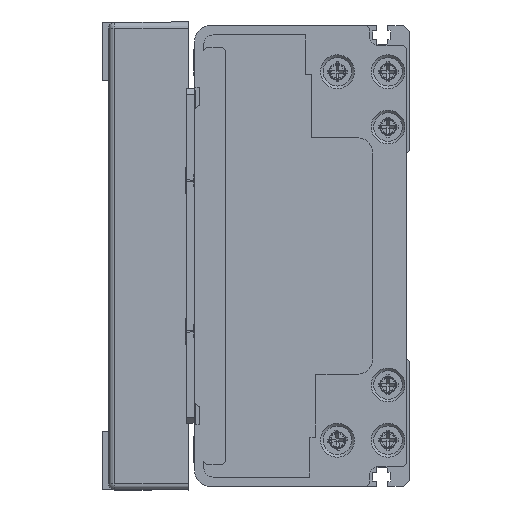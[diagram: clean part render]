
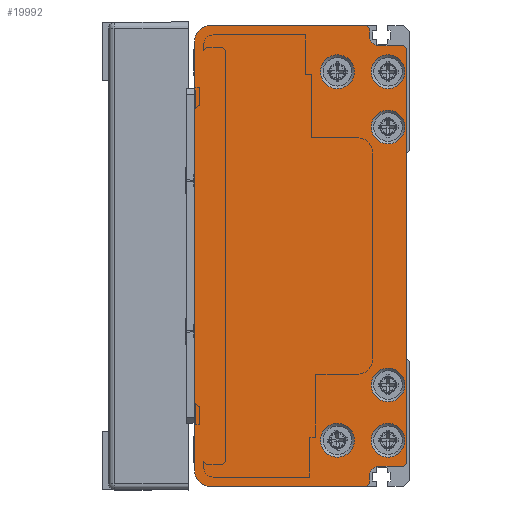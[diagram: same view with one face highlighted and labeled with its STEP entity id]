
A CAD part, left-side view. The second image highlights one B-rep face of the part: STEP entity #19992.
In plain terms, the highlighted planar face has unit normal (-1, 0, 0) as drawn and (0, 0, -1) by its records, which use the part's own axes.
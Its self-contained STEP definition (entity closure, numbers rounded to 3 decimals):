
#934=LINE('',#28962,#2599);
#935=LINE('',#28966,#2600);
#936=LINE('',#28968,#2601);
#937=LINE('',#28970,#2602);
#938=LINE('',#28974,#2603);
#939=LINE('',#28976,#2604);
#940=LINE('',#28978,#2605);
#941=LINE('',#28980,#2606);
#942=LINE('',#28982,#2607);
#943=LINE('',#28986,#2608);
#944=LINE('',#28988,#2609);
#945=LINE('',#28990,#2610);
#2599=VECTOR('',#23527,140.);
#2600=VECTOR('',#23530,51.);
#2601=VECTOR('',#23531,1.414);
#2602=VECTOR('',#23532,2.5);
#2603=VECTOR('',#23535,8.);
#2604=VECTOR('',#23536,1.414);
#2605=VECTOR('',#23537,135.);
#2606=VECTOR('',#23538,1.414);
#2607=VECTOR('',#23539,8.);
#2608=VECTOR('',#23542,2.5);
#2609=VECTOR('',#23543,1.414);
#2610=VECTOR('',#23544,51.);
#4217=PLANE('',#21382);
#4852=FACE_BOUND('',#6736,.T.);
#4853=FACE_BOUND('',#6737,.T.);
#4854=FACE_BOUND('',#6738,.T.);
#4855=FACE_BOUND('',#6739,.T.);
#4856=FACE_BOUND('',#6740,.T.);
#4857=FACE_BOUND('',#6741,.T.);
#5435=FACE_OUTER_BOUND('',#6735,.T.);
#6735=EDGE_LOOP('',(#14055,#14056,#14057,#14058,#14059,#14060,#14061,#14062,
#14063,#14064,#14065,#14066,#14067,#14068,#14069,#14070));
#6736=EDGE_LOOP('',(#14071));
#6737=EDGE_LOOP('',(#14072));
#6738=EDGE_LOOP('',(#14073));
#6739=EDGE_LOOP('',(#14074));
#6740=EDGE_LOOP('',(#14075));
#6741=EDGE_LOOP('',(#14076));
#8265=CIRCLE('',#21383,5.);
#8266=CIRCLE('',#21384,3.);
#8267=CIRCLE('',#21385,3.);
#8268=CIRCLE('',#21386,5.);
#8269=CIRCLE('',#21387,5.5);
#8270=CIRCLE('',#21388,5.5);
#8271=CIRCLE('',#21389,5.5);
#8272=CIRCLE('',#21390,5.5);
#8273=CIRCLE('',#21391,5.5);
#8274=CIRCLE('',#21392,5.5);
#8969=VERTEX_POINT('',#28960);
#8970=VERTEX_POINT('',#28961);
#8971=VERTEX_POINT('',#28963);
#8972=VERTEX_POINT('',#28965);
#8973=VERTEX_POINT('',#28967);
#8974=VERTEX_POINT('',#28969);
#8975=VERTEX_POINT('',#28971);
#8976=VERTEX_POINT('',#28973);
#8977=VERTEX_POINT('',#28975);
#8978=VERTEX_POINT('',#28977);
#8979=VERTEX_POINT('',#28979);
#8980=VERTEX_POINT('',#28981);
#8981=VERTEX_POINT('',#28983);
#8982=VERTEX_POINT('',#28985);
#8983=VERTEX_POINT('',#28987);
#8984=VERTEX_POINT('',#28989);
#8985=VERTEX_POINT('',#28992);
#8986=VERTEX_POINT('',#28994);
#8987=VERTEX_POINT('',#28996);
#8988=VERTEX_POINT('',#28998);
#8989=VERTEX_POINT('',#29000);
#8990=VERTEX_POINT('',#29002);
#11017=EDGE_CURVE('',#8969,#8970,#934,.T.);
#11018=EDGE_CURVE('',#8970,#8971,#8265,.T.);
#11019=EDGE_CURVE('',#8971,#8972,#935,.T.);
#11020=EDGE_CURVE('',#8972,#8973,#936,.T.);
#11021=EDGE_CURVE('',#8973,#8974,#937,.T.);
#11022=EDGE_CURVE('',#8974,#8975,#8266,.T.);
#11023=EDGE_CURVE('',#8975,#8976,#938,.T.);
#11024=EDGE_CURVE('',#8976,#8977,#939,.T.);
#11025=EDGE_CURVE('',#8977,#8978,#940,.T.);
#11026=EDGE_CURVE('',#8978,#8979,#941,.T.);
#11027=EDGE_CURVE('',#8979,#8980,#942,.T.);
#11028=EDGE_CURVE('',#8980,#8981,#8267,.T.);
#11029=EDGE_CURVE('',#8981,#8982,#943,.T.);
#11030=EDGE_CURVE('',#8982,#8983,#944,.T.);
#11031=EDGE_CURVE('',#8983,#8984,#945,.T.);
#11032=EDGE_CURVE('',#8984,#8969,#8268,.T.);
#11033=EDGE_CURVE('',#8985,#8985,#8269,.T.);
#11034=EDGE_CURVE('',#8986,#8986,#8270,.T.);
#11035=EDGE_CURVE('',#8987,#8987,#8271,.T.);
#11036=EDGE_CURVE('',#8988,#8988,#8272,.T.);
#11037=EDGE_CURVE('',#8989,#8989,#8273,.T.);
#11038=EDGE_CURVE('',#8990,#8990,#8274,.T.);
#14055=ORIENTED_EDGE('',*,*,#11017,.T.);
#14056=ORIENTED_EDGE('',*,*,#11018,.T.);
#14057=ORIENTED_EDGE('',*,*,#11019,.T.);
#14058=ORIENTED_EDGE('',*,*,#11020,.T.);
#14059=ORIENTED_EDGE('',*,*,#11021,.T.);
#14060=ORIENTED_EDGE('',*,*,#11022,.T.);
#14061=ORIENTED_EDGE('',*,*,#11023,.T.);
#14062=ORIENTED_EDGE('',*,*,#11024,.T.);
#14063=ORIENTED_EDGE('',*,*,#11025,.T.);
#14064=ORIENTED_EDGE('',*,*,#11026,.T.);
#14065=ORIENTED_EDGE('',*,*,#11027,.T.);
#14066=ORIENTED_EDGE('',*,*,#11028,.T.);
#14067=ORIENTED_EDGE('',*,*,#11029,.T.);
#14068=ORIENTED_EDGE('',*,*,#11030,.T.);
#14069=ORIENTED_EDGE('',*,*,#11031,.T.);
#14070=ORIENTED_EDGE('',*,*,#11032,.T.);
#14071=ORIENTED_EDGE('',*,*,#11033,.T.);
#14072=ORIENTED_EDGE('',*,*,#11034,.T.);
#14073=ORIENTED_EDGE('',*,*,#11035,.T.);
#14074=ORIENTED_EDGE('',*,*,#11036,.T.);
#14075=ORIENTED_EDGE('',*,*,#11037,.T.);
#14076=ORIENTED_EDGE('',*,*,#11038,.T.);
#19992=ADVANCED_FACE('',(#5435,#4852,#4853,#4854,#4855,#4856,#4857),#4217,
 .F.);
#21382=AXIS2_PLACEMENT_3D('',#28959,#23525,#23526);
#21383=AXIS2_PLACEMENT_3D('',#28964,#23528,#23529);
#21384=AXIS2_PLACEMENT_3D('',#28972,#23533,#23534);
#21385=AXIS2_PLACEMENT_3D('',#28984,#23540,#23541);
#21386=AXIS2_PLACEMENT_3D('',#28991,#23545,#23546);
#21387=AXIS2_PLACEMENT_3D('',#28993,#23547,#23548);
#21388=AXIS2_PLACEMENT_3D('',#28995,#23549,#23550);
#21389=AXIS2_PLACEMENT_3D('',#28997,#23551,#23552);
#21390=AXIS2_PLACEMENT_3D('',#28999,#23553,#23554);
#21391=AXIS2_PLACEMENT_3D('',#29001,#23555,#23556);
#21392=AXIS2_PLACEMENT_3D('',#29003,#23557,#23558);
#23525=DIRECTION('center_axis',(0.,0.,
1.));
#23526=DIRECTION('ref_axis',(1.,0.,0.));
#23527=DIRECTION('',(1.,0.,0.));
#23528=DIRECTION('center_axis',(0.,0.,
-1.));
#23529=DIRECTION('ref_axis',(-1.,0.,0.));
#23530=DIRECTION('',(0.,-1.,0.));
#23531=DIRECTION('',(-0.707,-0.707,0.));
#23532=DIRECTION('',(-1.,0.,0.));
#23533=DIRECTION('center_axis',(0.,0.,
1.));
#23534=DIRECTION('ref_axis',(0.,1.,0.));
#23535=DIRECTION('',(0.,-1.,0.));
#23536=DIRECTION('',(-0.707,-0.707,0.));
#23537=DIRECTION('',(-1.,0.,0.));
#23538=DIRECTION('',(-0.707,0.707,0.));
#23539=DIRECTION('',(0.,1.,0.));
#23540=DIRECTION('center_axis',(0.,0.,
1.));
#23541=DIRECTION('ref_axis',(1.,0.,0.));
#23542=DIRECTION('',(-1.,0.,0.));
#23543=DIRECTION('',(-0.707,0.707,0.));
#23544=DIRECTION('',(0.,1.,0.));
#23545=DIRECTION('center_axis',(0.,0.,
-1.));
#23546=DIRECTION('ref_axis',(0.,-1.,0.));
#23547=DIRECTION('center_axis',(0.,0.,
1.));
#23548=DIRECTION('ref_axis',(-1.,0.,0.));
#23549=DIRECTION('center_axis',(0.,0.,
1.));
#23550=DIRECTION('ref_axis',(-1.,0.,0.));
#23551=DIRECTION('center_axis',(0.,0.,
1.));
#23552=DIRECTION('ref_axis',(-1.,0.,0.));
#23553=DIRECTION('center_axis',(0.,0.,
1.));
#23554=DIRECTION('ref_axis',(-1.,0.,0.));
#23555=DIRECTION('center_axis',(0.,0.,
1.));
#23556=DIRECTION('ref_axis',(-1.,0.,0.));
#23557=DIRECTION('center_axis',(0.,0.,
1.));
#23558=DIRECTION('ref_axis',(-1.,0.,0.));
#28959=CARTESIAN_POINT('Origin',(0.25,38.047,-1719.));
#28960=CARTESIAN_POINT('',(-69.75,72.25,-1719.));
#28961=CARTESIAN_POINT('',(70.25,72.25,-1719.));
#28962=CARTESIAN_POINT('',(-69.75,72.25,-1719.));
#28963=CARTESIAN_POINT('',(75.25,67.25,-1719.));
#28964=CARTESIAN_POINT('Origin',(70.25,67.25,-1719.));
#28965=CARTESIAN_POINT('',(75.25,16.25,-1719.));
#28966=CARTESIAN_POINT('',(75.25,67.25,-1719.));
#28967=CARTESIAN_POINT('',(74.25,15.25,-1719.));
#28968=CARTESIAN_POINT('',(75.25,16.25,-1719.));
#28969=CARTESIAN_POINT('',(71.75,15.25,-1719.));
#28970=CARTESIAN_POINT('',(74.25,15.25,-1719.));
#28971=CARTESIAN_POINT('',(68.75,12.25,-1719.));
#28972=CARTESIAN_POINT('Origin',(71.75,12.25,-1719.));
#28973=CARTESIAN_POINT('',(68.75,4.25,-1719.));
#28974=CARTESIAN_POINT('',(68.75,12.25,-1719.));
#28975=CARTESIAN_POINT('',(67.75,3.25,-1719.));
#28976=CARTESIAN_POINT('',(68.75,4.25,-1719.));
#28977=CARTESIAN_POINT('',(-67.25,3.25,-1719.));
#28978=CARTESIAN_POINT('',(67.75,3.25,-1719.));
#28979=CARTESIAN_POINT('',(-68.25,4.25,-1719.));
#28980=CARTESIAN_POINT('',(-67.25,3.25,-1719.));
#28981=CARTESIAN_POINT('',(-68.25,12.25,-1719.));
#28982=CARTESIAN_POINT('',(-68.25,4.25,-1719.));
#28983=CARTESIAN_POINT('',(-71.25,15.25,-1719.));
#28984=CARTESIAN_POINT('Origin',(-71.25,12.25,-1719.));
#28985=CARTESIAN_POINT('',(-73.75,15.25,-1719.));
#28986=CARTESIAN_POINT('',(-71.25,15.25,-1719.));
#28987=CARTESIAN_POINT('',(-74.75,16.25,-1719.));
#28988=CARTESIAN_POINT('',(-73.75,15.25,-1719.));
#28989=CARTESIAN_POINT('',(-74.75,67.25,-1719.));
#28990=CARTESIAN_POINT('',(-74.75,16.25,-1719.));
#28991=CARTESIAN_POINT('Origin',(-69.75,67.25,-1719.));
#28992=CARTESIAN_POINT('',(-47.25,9.25,-1719.));
#28993=CARTESIAN_POINT('Origin',(-41.75,9.25,-1719.));
#28994=CARTESIAN_POINT('',(36.75,9.25,-1719.));
#28995=CARTESIAN_POINT('Origin',(42.25,9.25,-1719.));
#28996=CARTESIAN_POINT('',(-65.25,25.75,-1719.));
#28997=CARTESIAN_POINT('Origin',(-59.75,25.75,-1719.));
#28998=CARTESIAN_POINT('',(54.75,25.75,-1719.));
#28999=CARTESIAN_POINT('Origin',(60.25,25.75,-1719.));
#29000=CARTESIAN_POINT('',(-65.25,9.25,-1719.));
#29001=CARTESIAN_POINT('Origin',(-59.75,9.25,-1719.));
#29002=CARTESIAN_POINT('',(54.75,9.25,-1719.));
#29003=CARTESIAN_POINT('Origin',(60.25,9.25,-1719.));
